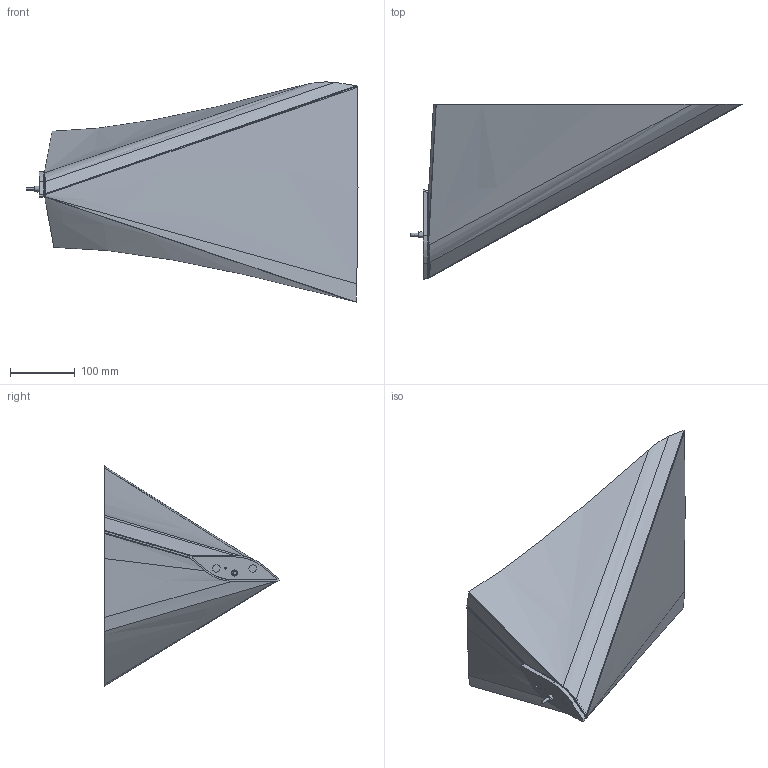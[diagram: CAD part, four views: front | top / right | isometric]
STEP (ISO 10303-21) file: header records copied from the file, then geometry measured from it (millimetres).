
FILE_DESCRIPTION(('CATIA V5 STEP Exchange','CAx-IF Rec.Pracs.--- Model Styling and Organization---1.5--- 2016-08-15','CAx-IF Rec.Pracs.---Supplemental Geometry---1.0---2011-11-01','CAx-IF Rec.Pracs.--- Composite Materials ---1.1---2010-07-15'),'2;1');
FILE_NAME('E:\tmp\ddx\2011205\HELLA_3D_data_LED_direction_indicator_lamp_cat-5_SHAPELINE_style_2BM-013-338.stp','2022-01-18T06:59:54+00:00',('none'),('none'),'CATIA Version 5-6 Release 2020 SP3 HF9','CATIA V5 STEP AP214 Edition 3 v2','none');
FILE_SCHEMA(('AUTOMOTIVE_DESIGN { 1 0 10303 214 3 1 1 1 }'));
Length unit declared in the file: millimetre
Products named in the file (1): 10001749720_D10_001
Bounding box: 511.05 x 269.15 x 339.02 mm (x, y, z)
Volume: 58944.2 mm3; surface area: 266823.1 mm2
Topology: 1 solids, 2 shells, 844 faces, 2155 edges, 1347 vertices
Faces by surface type: plane 296, bspline 210, extrusion 165, cylinder 111, torus 24, cone 24, sphere 12, revolution 2
Entity records: 39014 total; most frequent: CARTESIAN_POINT 21774, ORIENTED_EDGE 4252, EDGE_CURVE 2145, DIRECTION 2094, VERTEX_POINT 1347, VECTOR 1143, B_SPLINE_CURVE_WITH_KNOTS 1109, LINE 978
